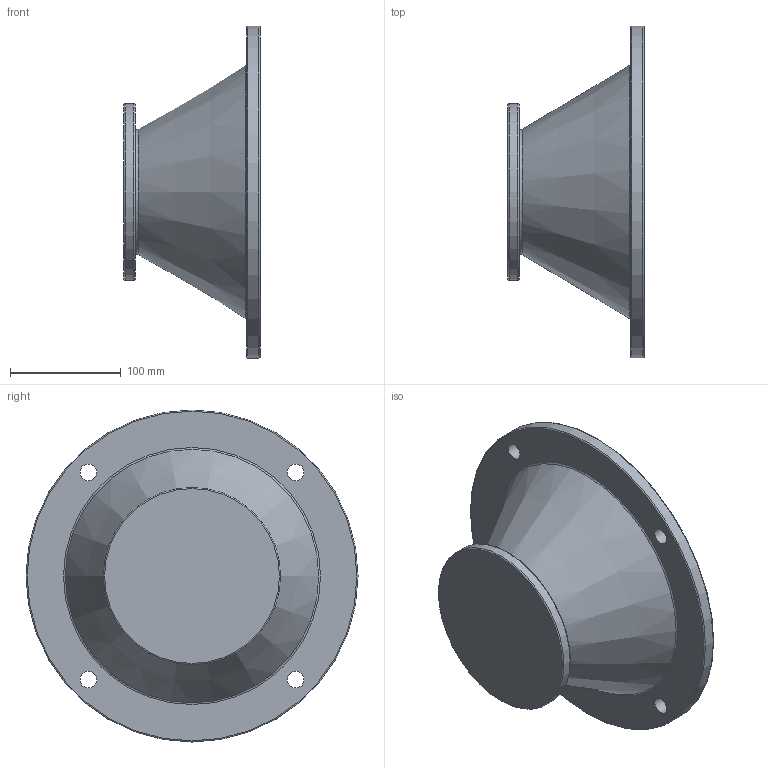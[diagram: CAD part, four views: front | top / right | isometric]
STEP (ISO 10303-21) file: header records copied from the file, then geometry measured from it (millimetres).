
FILE_DESCRIPTION((''),'2;1');
FILE_NAME('D:\PAWEŁ\ZLECENIA\2011 DualSystem\Przekładnie DR\DR50\STEP\132_B5_L123.stp','2012-06-11T12:03:51',('admin'),(''),'Autodesk Inventor 2009','Autodesk Inventor 2009','');
FILE_SCHEMA(('AUTOMOTIVE_DESIGN { 1 0 10303 214 1 1 1 1 }'));
Length unit declared in the file: millimetre
Products named in the file (1): 132_B5_L123
Bounding box: 123 x 300 x 300 mm (x, y, z)
Volume: 1079634.4 mm3; surface area: 267176.9 mm2
Topology: 1 solids, 1 shells, 30 faces, 59 edges, 37 vertices
Faces by surface type: plane 12, bspline 6, torus 5, cylinder 5, cone 2
Full cylindrical faces by diameter (mm): 38 x1, 62 x1, 160 x1, 230 x1, 300 x1
Entity records: 895 total; most frequent: CARTESIAN_POINT 281, DIRECTION 120, ORIENTED_EDGE 80, EDGE_LOOP 62, AXIS2_PLACEMENT_3D 55, EDGE_CURVE 40, VERTEX_POINT 36, FACE_BOUND 32
